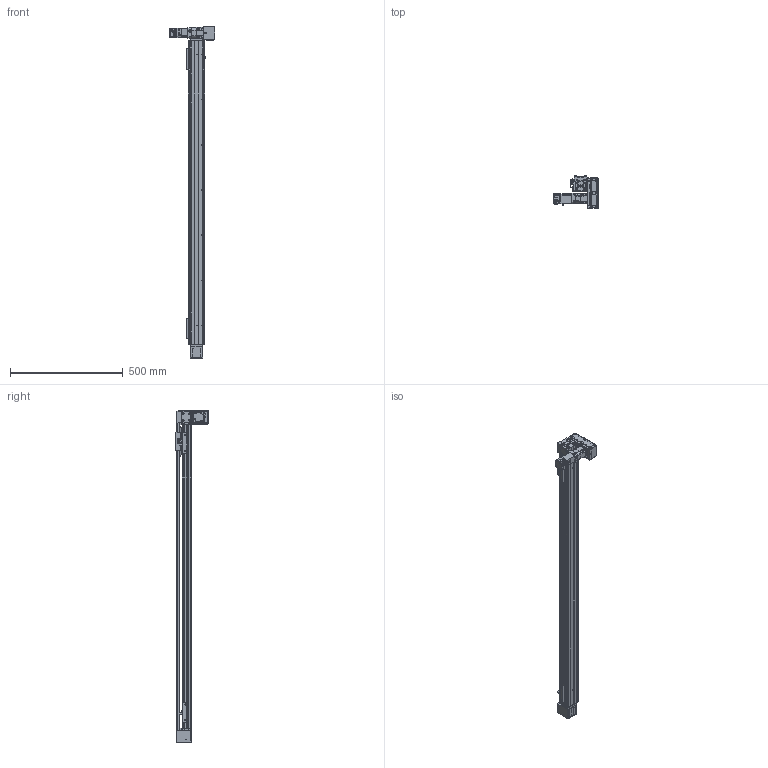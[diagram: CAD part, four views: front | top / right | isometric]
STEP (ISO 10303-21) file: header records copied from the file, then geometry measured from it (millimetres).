
FILE_DESCRIPTION(/* description */ (''),/* implementation_level */ '2;1');
FILE_NAME(/* name */ '\\192.168.0.160\disk1\HAN SHIN Master\B-설계부문\C-표준\B-2024년\BC02-표준도면\+로봇 개선표준도면\홈페이지 표준 도면\홈페이지 최종 작업 폴더\3D\HB\HB55\HB55-DR1G-N-1200-L.stp',/* time_stamp */ '2025-06-03T13:21:24+09:00',/* author */ ('user'),/* organization */ (''),/* preprocessor_version */ 'ST-DEVELOPER v18.1',/* originating_system */ 'Autodesk Inventor 2022',/* authorisation */ '');
FILE_SCHEMA (('AUTOMOTIVE_DESIGN { 1 0 10303 214 3 1 1 }'));
Products named in the file (40): HSB55-DR1G-N-0500-L; HSB55 BASE; HSB55 TABLE; UPCOVER; HSB55 HOUSING (Connecting); HSB55 FRONT HOUSIONG; HSB55 REAR SHAFT-1; HSB55 REAR SHAFT; HSB55 DOWN CLAMP; M4-25(렌치볼트); HSB55 HOUSING-R1; HSB55 TENSION PLATE; ISO 4032 - M4; HSB55 UP CLAMP; M4-12(렌치볼트); HR45 STOPPER; HSB55 ACRYL COVER-R1; HSB55 ACRYL COVER; HSB160 BEARING OVER; HSB55 END COVER; HSB160 SHAFT-1; EC-6202ZZ; EC-6202ZZ Inner ring; EC-6202ZZ Outer ring; EC-6202ZZ St; EC-6202ZZ Ball; EC-6202ZZ B1; HR45 SENSOR DOG; hsr_ftht_A-M6F_grease_nipple_joint; NIPPLE CAP(신규); HR45 SENSOR RAIL; EE_SX674A; PGX44-H-1_3; hg-kr13_; MOTOR PLATE-100W(MITSUBISHI); HSB55 D BELT COVER; HR65-BELT COVER-COVER; HR65-BELT COVER-COVER3; HSB55 D MOTOR PLATE; HR65-BELT COVER-COVER2
Assembly tree (63 placements, depth 3):
  HSB55-DR1G-N-0500-L
    HSB55 BASE
    HSB55 TABLE
    UPCOVER
    HSB55 FRONT HOUSIONG  x2
    HSB55 HOUSING (Connecting)
    HSB55 REAR SHAFT-1
    #127281  x2
    HSB55 REAR SHAFT
    HSB55 DOWN CLAMP  x2
    HSB55 UP CLAMP  x2
    M4-25(렌치볼트)
    ISO 4032 - M4  x2
    HSB55 HOUSING-R1
    HSB55 TENSION PLATE  x2
    M4-12(렌치볼트)
    HR45 STOPPER  x2
    HSB55 ACRYL COVER  x4
    HSB55 ACRYL COVER-R1
    HSB160 BEARING OVER
    HSB55 END COVER
    HSB160 SHAFT-1
    EC-6202ZZ  x2
      EC-6202ZZ Inner ring
      EC-6202ZZ Outer ring
      EC-6202ZZ B1
      EC-6202ZZ St
      EC-6202ZZ Ball
    HR45 SENSOR DOG
    EE_SX674A  x3
    HR45 SENSOR RAIL  x2
    hsr_ftht_A-M6F_grease_nipple_joint
    NIPPLE CAP(신규)
    PGX44-H-1_3
    hg-kr13_
    MOTOR PLATE-100W(MITSUBISHI)
    HSB55 D BELT COVER
    HR65-BELT COVER-COVER
    HR65-BELT COVER-COVER3
    HSB55 D MOTOR PLATE
    HR65-BELT COVER-COVER2  x2
Bounding box: 201.4 x 142.7 x 1470 mm (x, y, z)
Volume: 2464430.2 mm3; surface area: 1050859.1 mm2
Topology: 89 solids, 89 shells, 5111 faces, 13965 edges, 9150 vertices
Faces by surface type: plane 3553, cylinder 1201, cone 278, torus 35, sphere 22, bspline 22
Full cylindrical faces by diameter (mm): 1 x2, 2 x3, 2.013 x4, 2.459 x96, 2.5 x5, 3 x3, 3.242 x70, 3.3 x9, 3.4 x22, 3.5 x75, 4 x12, 4.134 x14, 4.2 x4, 4.5 x45, 4.917 x2, 5 x8, 5.5 x1, 5.6 x3, 5.9 x2, 6 x46, 6.5 x4, 7 x6, 7.5 x4, 8 x15, 8.2 x1, 9 x2, 9.5 x2, 10 x1, 11.5 x2, 12 x6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
Entity records: 127234 total; most frequent: CARTESIAN_POINT 25791, ORIENTED_EDGE 20802, DIRECTION 20406, EDGE_CURVE 10401, LINE 7458, VECTOR 7458, VERTEX_POINT 6850, AXIS2_PLACEMENT_3D 6474
